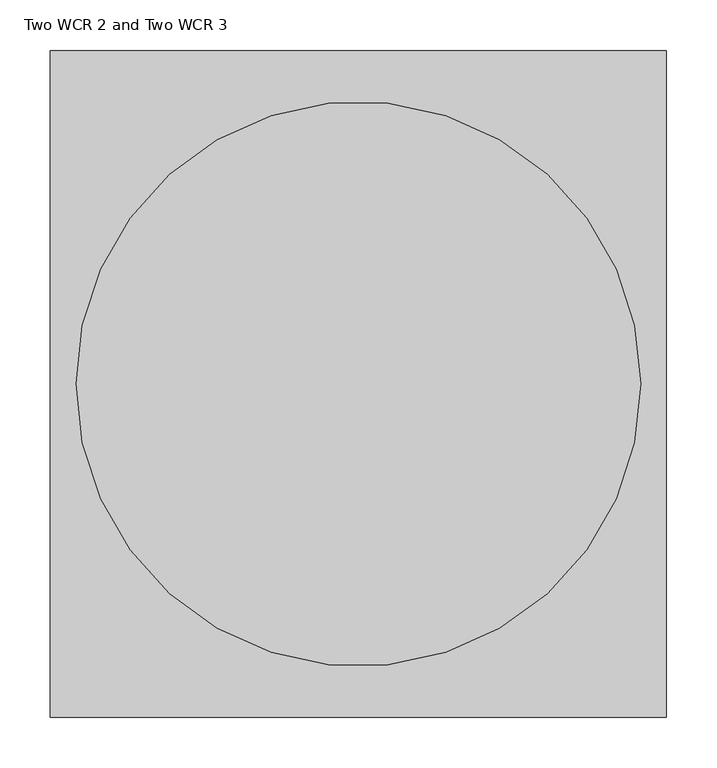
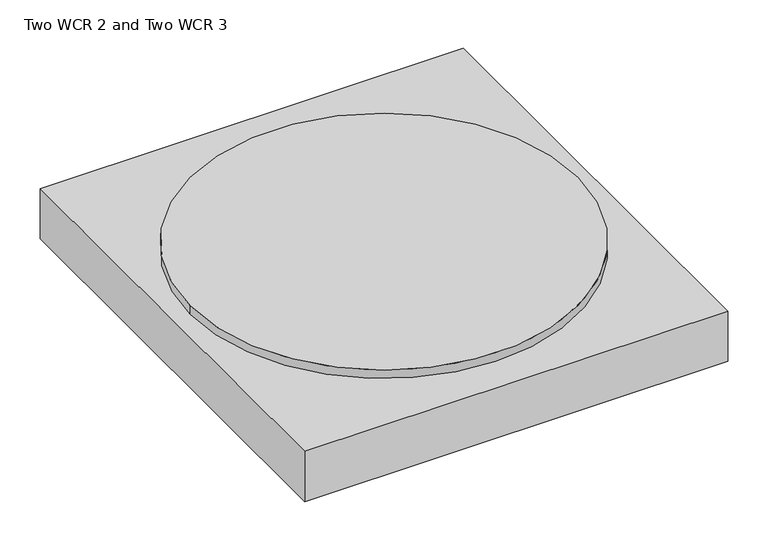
"""IFC4 building model written with IfcOpenShell, lengths in millimetres: proxy geometry, Junction_Box-Walkercell-Wiremold : Two WCR 2 and Two WCR 3."""

from ifc_helpers import new_model, si_unit, point, frame, origin, origin_2d, place, context, project, spatial, polyline, circle_curve, trimmed, segment, composite_curve, outline, extrude, source, transform, mapped, element, save


def two_wcr_2_and_two_wcr_3_27b9381f(model_context):
    return source(origin(), model_context, "Body", "SweptSolid", [
        extrude(outline(composite_curve([segment(trimmed(circle_curve(origin_2d(), 279.4), [point((-279.4, 0.0))], [point((279.4, 0.0))], False, "CARTESIAN"), True, "CONTINUOUS"), segment(trimmed(circle_curve(origin_2d(), 279.4), [point((279.4, 0.0))], [point((-279.4, 0.0))], False, "CARTESIAN"), True, "CONTINUOUS")], self_intersect=False)), frame((0.0, 0.0, 1.5748), z_axis=(0.0, 0.0, 1.0), x_axis=(1.0, 0.0, 0.0)), (0.0, 0.0, 1.0), 12.7),
        extrude(outline(polyline([(304.8, 330.2), (304.8, -330.2), (-304.8, -330.2), (-304.8, 330.2), (304.8, 330.2)])), frame((0.0, 0.0, -74.6252), z_axis=(0.0, 0.0, 1.0), x_axis=(1.0, 0.0, 0.0)), (0.0, 0.0, 1.0), 76.2),
    ])


if __name__ == "__main__":
    model = new_model("IFC4")
    model_context = context("Model", 3, world=origin())
    ifc_project = project(units=[si_unit("LENGTHUNIT", "METRE", prefix="MILLI")], contexts=[model_context])
    site = spatial("IfcSite", under=ifc_project)
    building = spatial("IfcBuilding", under=site)
    placement = place(None, origin())
    two_wcr_2_and_two_wcr_3_shape = two_wcr_2_and_two_wcr_3_27b9381f(model_context)
    element("IfcBuildingElementProxy", 1, Name="Junction_Box-Walkercell-Wiremold : Two WCR 2 and Two WCR 3", ObjectType="Junction_Box-Walkercell-Wiremold : Two WCR 2 and Two WCR 3", at=placement, inside=building, context=model_context, shape_type="MappedRepresentation", body=[
        mapped(two_wcr_2_and_two_wcr_3_shape, transform((0.0, 0.0, 0.0), x_axis=(1.0, 0.0, 0.0), y_axis=(0.0, 1.0, 0.0), z_axis=(0.0, 0.0, 1.0))),
    ])
    save(model, "model.ifc")
